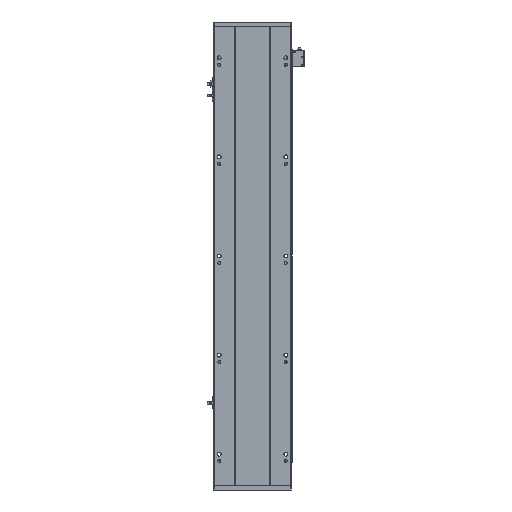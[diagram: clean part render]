
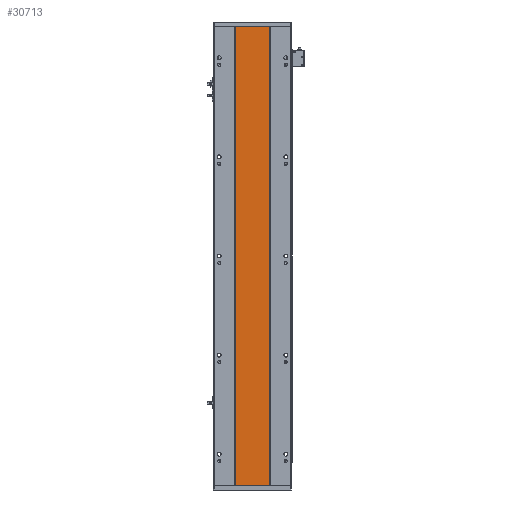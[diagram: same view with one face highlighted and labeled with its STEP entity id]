
A CAD part, front view. The second image highlights one B-rep face of the part: STEP entity #30713.
In plain terms, the highlighted planar face has unit normal (0, -1, 0).
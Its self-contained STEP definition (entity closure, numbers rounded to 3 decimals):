
#542 = EDGE_CURVE ( 'NONE', #5678, #5463, #3235, .T. ) ;
#1380 = DIRECTION ( 'NONE',  ( -1., 0., 0. ) ) ;
#1630 = AXIS2_PLACEMENT_3D ( 'NONE', #8348, #15883, #1380 ) ;
#2298 = ORIENTED_EDGE ( 'NONE', *, *, #14055, .T. ) ;
#2352 = CARTESIAN_POINT ( 'NONE',  ( 205.288, 16.9, 0. ) ) ;
#3235 = LINE ( 'NONE', #18210, #25286 ) ;
#3998 = EDGE_LOOP ( 'NONE', ( #20460, #9302, #29837, #2298 ) ) ;
#5463 = VERTEX_POINT ( 'NONE', #2352 ) ;
#5678 = VERTEX_POINT ( 'NONE', #29142 ) ;
#8348 = CARTESIAN_POINT ( 'NONE',  ( 205.288, 16.9, 1000. ) ) ;
#8548 = PLANE ( 'NONE',  #1630 ) ;
#8704 = DIRECTION ( 'NONE',  ( 0., 0., -1. ) ) ;
#9302 = ORIENTED_EDGE ( 'NONE', *, *, #29973, .F. ) ;
#11662 = VERTEX_POINT ( 'NONE', #17249 ) ;
#14055 = EDGE_CURVE ( 'NONE', #11662, #5678, #19226, .T. ) ;
#14783 = CARTESIAN_POINT ( 'NONE',  ( 205.288, 16.9, 1000. ) ) ;
#15883 = DIRECTION ( 'NONE',  ( 0., 1., 0. ) ) ;
#17249 = CARTESIAN_POINT ( 'NONE',  ( 129.288, 16.9, 1000. ) ) ;
#17735 = LINE ( 'NONE', #14783, #30446 ) ;
#18210 = CARTESIAN_POINT ( 'NONE',  ( 205.288, 16.9, 0. ) ) ;
#18760 = CARTESIAN_POINT ( 'NONE',  ( 205.288, 16.9, 1000. ) ) ;
#19226 = LINE ( 'NONE', #30115, #26641 ) ;
#19759 = LINE ( 'NONE', #22187, #24952 ) ;
#20460 = ORIENTED_EDGE ( 'NONE', *, *, #542, .T. ) ;
#21988 = DIRECTION ( 'NONE',  ( 1., 0., 0. ) ) ;
#22187 = CARTESIAN_POINT ( 'NONE',  ( 129.288, 16.9, 1000. ) ) ;
#24834 = EDGE_CURVE ( 'NONE', #11662, #30371, #19759, .T. ) ;
#24952 = VECTOR ( 'NONE', #21988, 1000. ) ;
#25286 = VECTOR ( 'NONE', #27363, 1000. ) ;
#26569 = DIRECTION ( 'NONE',  ( 0., 0., -1. ) ) ;
#26641 = VECTOR ( 'NONE', #8704, 1000. ) ;
#27363 = DIRECTION ( 'NONE',  ( 1., 0., 0. ) ) ;
#29142 = CARTESIAN_POINT ( 'NONE',  ( 129.288, 16.9, 0. ) ) ;
#29837 = ORIENTED_EDGE ( 'NONE', *, *, #24834, .F. ) ;
#29973 = EDGE_CURVE ( 'NONE', #30371, #5463, #17735, .T. ) ;
#30115 = CARTESIAN_POINT ( 'NONE',  ( 129.288, 16.9, 1000. ) ) ;
#30371 = VERTEX_POINT ( 'NONE', #18760 ) ;
#30413 = FACE_OUTER_BOUND ( 'NONE', #3998, .T. ) ;
#30446 = VECTOR ( 'NONE', #26569, 1000. ) ;
#30713 = ADVANCED_FACE ( 'NONE', ( #30413 ), #8548, .F. ) ;
